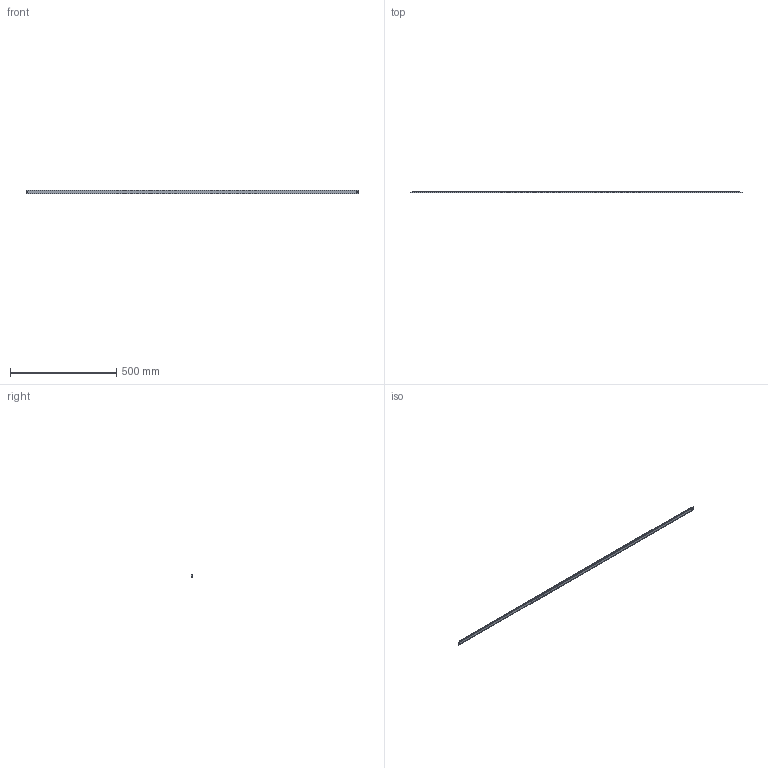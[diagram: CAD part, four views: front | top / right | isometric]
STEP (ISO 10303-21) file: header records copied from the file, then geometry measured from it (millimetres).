
FILE_DESCRIPTION (( 'STEP AP214' ), '1' );
FILE_NAME ('SAScale_exposed.ScaleLneght1560.STEP', '2026-03-16T07:32:23', ( '' ), ( '' ), 'SwSTEP 2.0', 'SolidWorks 2024', '' );
FILE_SCHEMA (( 'AUTOMOTIVE_DESIGN' ));
Length unit declared in the file: millimetre
Products named in the file (1): SAScale_exposed.ScaleLneght1560
Bounding box: 1560 x 6 x 18 mm (x, y, z)
Volume: 154731 mm3; surface area: 133952.1 mm2
Topology: 2 solids, 2 shells, 52 faces, 141 edges, 94 vertices
Faces by surface type: plane 37, cylinder 15
Entity records: 2247 total; most frequent: CARTESIAN_POINT 288, ORIENTED_EDGE 282, DIRECTION 277, EDGE_CURVE 141, LINE 111, VECTOR 111, VERTEX_POINT 94, AXIS2_PLACEMENT_3D 83
